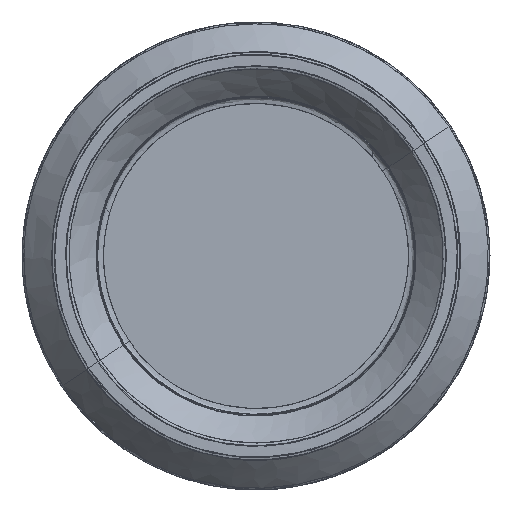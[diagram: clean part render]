
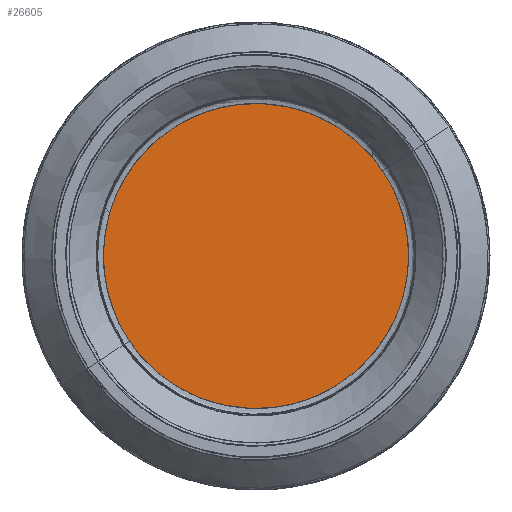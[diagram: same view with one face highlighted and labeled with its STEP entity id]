
A CAD part, front view. The second image highlights one B-rep face of the part: STEP entity #26605.
In plain terms, the highlighted planar face has unit normal (0, -1, 0).
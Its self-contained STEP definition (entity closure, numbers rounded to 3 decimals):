
#26605 = ADVANCED_FACE('',(#26606),#26633,.T.);
#26606 = FACE_BOUND('',#26607,.T.);
#26607 = EDGE_LOOP('',(#26608,#26657));
#26608 = ORIENTED_EDGE('',*,*,#26609,.T.);
#26609 = EDGE_CURVE('',#26610,#26612,#26614,.T.);
#26610 = VERTEX_POINT('',#26611);
#26611 = CARTESIAN_POINT('',(-31.154,12.3,-20.874));
#26612 = VERTEX_POINT('',#26613);
#26613 = CARTESIAN_POINT('',(31.154,12.3,20.874));
#26614 = SURFACE_CURVE('',#26615,(#26632),.PCURVE_S1.);
#26615 = B_SPLINE_CURVE_WITH_KNOTS('',3,(#26616,#26617,#26618,#26619,
    #26620,#26621,#26622,#26623,#26624,#26625,#26626,#26627,#26628,
    #26629,#26630,#26631),.UNSPECIFIED.,.F.,.F.,(4,3,3,3,3,4),(0.,
    0.249,0.456,0.705,0.954,1.),
  .UNSPECIFIED.);
#26616 = CARTESIAN_POINT('',(-31.154,12.3,-20.874));
#26617 = CARTESIAN_POINT('',(-25.644,12.3,-29.096));
#26618 = CARTESIAN_POINT('',(-17.107,12.3,-34.808));
#26619 = CARTESIAN_POINT('',(-7.404,12.3,-36.762));
#26620 = CARTESIAN_POINT('',(0.65,12.3,-38.384));
#26621 = CARTESIAN_POINT('',(9.014,12.3,-37.316));
#26622 = CARTESIAN_POINT('',(16.402,12.3,-33.723));
#26623 = CARTESIAN_POINT('',(25.303,12.3,-29.393));
#26624 = CARTESIAN_POINT('',(32.132,12.3,-21.721));
#26625 = CARTESIAN_POINT('',(35.398,12.3,-12.377));
#26626 = CARTESIAN_POINT('',(38.665,12.3,-3.034));
#26627 = CARTESIAN_POINT('',(38.106,12.3,7.222));
#26628 = CARTESIAN_POINT('',(33.842,12.3,16.154));
#26629 = CARTESIAN_POINT('',(33.061,12.3,17.79));
#26630 = CARTESIAN_POINT('',(32.163,12.3,19.368));
#26631 = CARTESIAN_POINT('',(31.154,12.3,20.874));
#26632 = PCURVE('',#26633,#26638);
#26633 = PLANE('',#26634);
#26634 = AXIS2_PLACEMENT_3D('',#26635,#26636,#26637);
#26635 = CARTESIAN_POINT('',(-38.665,12.3,-38.384));
#26636 = DIRECTION('',(0.,-1.,0.));
#26637 = DIRECTION('',(1.,0.,0.));
#26638 = DEFINITIONAL_REPRESENTATION('',(#26639),#26656);
#26639 = B_SPLINE_CURVE_WITH_KNOTS('',3,(#26640,#26641,#26642,#26643,
    #26644,#26645,#26646,#26647,#26648,#26649,#26650,#26651,#26652,
    #26653,#26654,#26655),.UNSPECIFIED.,.F.,.F.,(4,3,3,3,3,4),(0.,
    0.249,0.456,0.705,0.954,1.),
  .UNSPECIFIED.);
#26640 = CARTESIAN_POINT('',(7.512,17.51));
#26641 = CARTESIAN_POINT('',(13.021,9.287));
#26642 = CARTESIAN_POINT('',(21.558,3.576));
#26643 = CARTESIAN_POINT('',(31.262,1.622));
#26644 = CARTESIAN_POINT('',(39.316,0.));
#26645 = CARTESIAN_POINT('',(47.679,1.068));
#26646 = CARTESIAN_POINT('',(55.068,4.661));
#26647 = CARTESIAN_POINT('',(63.969,8.991));
#26648 = CARTESIAN_POINT('',(70.797,16.663));
#26649 = CARTESIAN_POINT('',(74.064,26.007));
#26650 = CARTESIAN_POINT('',(77.331,35.35));
#26651 = CARTESIAN_POINT('',(76.771,45.606));
#26652 = CARTESIAN_POINT('',(72.508,54.538));
#26653 = CARTESIAN_POINT('',(71.727,56.174));
#26654 = CARTESIAN_POINT('',(70.828,57.752));
#26655 = CARTESIAN_POINT('',(69.819,59.258));
#26656 = ( GEOMETRIC_REPRESENTATION_CONTEXT(2) 
PARAMETRIC_REPRESENTATION_CONTEXT() REPRESENTATION_CONTEXT('2D SPACE',''
  ) );
#26657 = ORIENTED_EDGE('',*,*,#26658,.T.);
#26658 = EDGE_CURVE('',#26612,#26610,#26659,.T.);
#26659 = SURFACE_CURVE('',#26660,(#26677),.PCURVE_S1.);
#26660 = B_SPLINE_CURVE_WITH_KNOTS('',3,(#26661,#26662,#26663,#26664,
    #26665,#26666,#26667,#26668,#26669,#26670,#26671,#26672,#26673,
    #26674,#26675,#26676),.UNSPECIFIED.,.F.,.F.,(4,3,3,3,3,4),(0.,
    0.249,0.456,0.705,0.954,1.),
  .UNSPECIFIED.);
#26661 = CARTESIAN_POINT('',(31.154,12.3,20.874));
#26662 = CARTESIAN_POINT('',(25.644,12.3,29.096));
#26663 = CARTESIAN_POINT('',(17.107,12.3,34.808));
#26664 = CARTESIAN_POINT('',(7.404,12.3,36.762));
#26665 = CARTESIAN_POINT('',(-0.65,12.3,38.384));
#26666 = CARTESIAN_POINT('',(-9.014,12.3,37.316));
#26667 = CARTESIAN_POINT('',(-16.402,12.3,33.723));
#26668 = CARTESIAN_POINT('',(-25.303,12.3,29.393));
#26669 = CARTESIAN_POINT('',(-32.132,12.3,21.721));
#26670 = CARTESIAN_POINT('',(-35.398,12.3,12.377));
#26671 = CARTESIAN_POINT('',(-38.665,12.3,3.034));
#26672 = CARTESIAN_POINT('',(-38.106,12.3,-7.222));
#26673 = CARTESIAN_POINT('',(-33.842,12.3,-16.154));
#26674 = CARTESIAN_POINT('',(-33.061,12.3,-17.79));
#26675 = CARTESIAN_POINT('',(-32.163,12.3,-19.368));
#26676 = CARTESIAN_POINT('',(-31.154,12.3,-20.874));
#26677 = PCURVE('',#26633,#26678);
#26678 = DEFINITIONAL_REPRESENTATION('',(#26679),#26696);
#26679 = B_SPLINE_CURVE_WITH_KNOTS('',3,(#26680,#26681,#26682,#26683,
    #26684,#26685,#26686,#26687,#26688,#26689,#26690,#26691,#26692,
    #26693,#26694,#26695),.UNSPECIFIED.,.F.,.F.,(4,3,3,3,3,4),(0.,
    0.249,0.456,0.705,0.954,1.),
  .UNSPECIFIED.);
#26680 = CARTESIAN_POINT('',(69.819,59.258));
#26681 = CARTESIAN_POINT('',(64.309,67.48));
#26682 = CARTESIAN_POINT('',(55.772,73.192));
#26683 = CARTESIAN_POINT('',(46.069,75.146));
#26684 = CARTESIAN_POINT('',(38.015,76.768));
#26685 = CARTESIAN_POINT('',(29.651,75.7));
#26686 = CARTESIAN_POINT('',(22.263,72.107));
#26687 = CARTESIAN_POINT('',(13.362,67.777));
#26688 = CARTESIAN_POINT('',(6.534,60.105));
#26689 = CARTESIAN_POINT('',(3.267,50.761));
#26690 = CARTESIAN_POINT('',(0.,41.418));
#26691 = CARTESIAN_POINT('',(0.559,31.162));
#26692 = CARTESIAN_POINT('',(4.823,22.23));
#26693 = CARTESIAN_POINT('',(5.604,20.594));
#26694 = CARTESIAN_POINT('',(6.503,19.016));
#26695 = CARTESIAN_POINT('',(7.512,17.51));
#26696 = ( GEOMETRIC_REPRESENTATION_CONTEXT(2) 
PARAMETRIC_REPRESENTATION_CONTEXT() REPRESENTATION_CONTEXT('2D SPACE',''
  ) );
